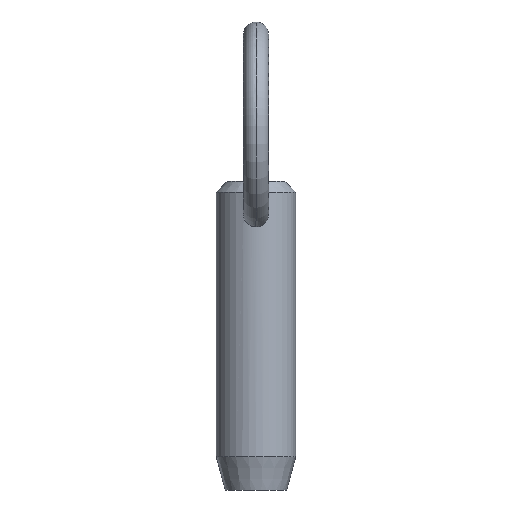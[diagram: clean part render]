
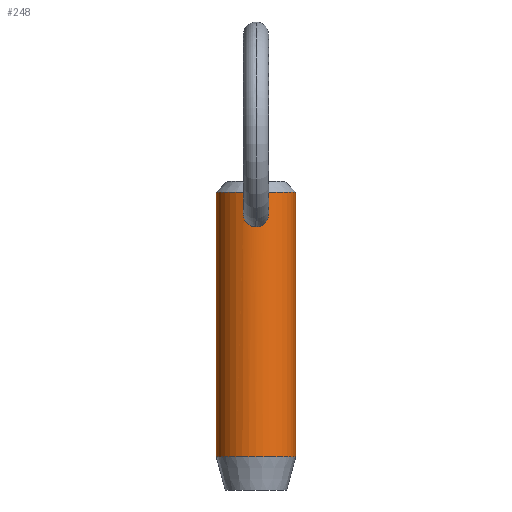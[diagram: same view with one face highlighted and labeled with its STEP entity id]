
A CAD part, front view. The second image highlights one B-rep face of the part: STEP entity #248.
In plain terms, the highlighted cylindrical face has radius 4.76 mm (diameter 9.52 mm), a partial arc.
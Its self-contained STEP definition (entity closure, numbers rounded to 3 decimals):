
#17 = ORIENTED_EDGE ( 'NONE', *, *, #436, .F. ) ;
#20 = CARTESIAN_POINT ( 'NONE',  ( 1.178, -4.613, 19.276 ) ) ;
#22 = AXIS2_PLACEMENT_3D ( 'NONE', #195, #475, #79 ) ;
#25 = CARTESIAN_POINT ( 'NONE',  ( 0., -4.76, 22.048 ) ) ;
#26 = CARTESIAN_POINT ( 'NONE',  ( 4.76, 0., -8.7 ) ) ;
#29 = CARTESIAN_POINT ( 'NONE',  ( 0.411, -4.743, 18.777 ) ) ;
#34 = EDGE_CURVE ( 'NONE', #52, #146, #136, .T. ) ;
#37 = CARTESIAN_POINT ( 'NONE',  ( 0., -4.76, 18.726 ) ) ;
#52 = VERTEX_POINT ( 'NONE', #222 ) ;
#65 = CARTESIAN_POINT ( 'NONE',  ( 1.45, -4.534, 19.828 ) ) ;
#74 = VERTEX_POINT ( 'NONE', #107 ) ;
#75 = DIRECTION ( 'NONE',  ( 0., 0., -1. ) ) ;
#79 = DIRECTION ( 'NONE',  ( 1., 0., 0. ) ) ;
#80 = EDGE_CURVE ( 'NONE', #74, #209, #473, .T. ) ;
#93 = CYLINDRICAL_SURFACE ( 'NONE', #246, 4.76 ) ;
#102 = CARTESIAN_POINT ( 'NONE',  ( -0.103, -4.76, 22.048 ) ) ;
#103 = CARTESIAN_POINT ( 'NONE',  ( 0.512, -4.733, 18.808 ) ) ;
#105 = CARTESIAN_POINT ( 'NONE',  ( 0.506, -4.734, 21.937 ) ) ;
#107 = CARTESIAN_POINT ( 'NONE',  ( 0., -4.76, 22.048 ) ) ;
#113 = VERTEX_POINT ( 'NONE', #144 ) ;
#114 = CARTESIAN_POINT ( 'NONE',  ( -0.961, -4.663, 19.057 ) ) ;
#115 = DIRECTION ( 'NONE',  ( -1., 0., 0. ) ) ;
#116 = EDGE_LOOP ( 'NONE', ( #497, #221 ) ) ;
#122 = VECTOR ( 'NONE', #455, 1000. ) ;
#136 = LINE ( 'NONE', #495, #522 ) ;
#137 = CARTESIAN_POINT ( 'NONE',  ( 0.409, -4.743, 21.978 ) ) ;
#139 = DIRECTION ( 'NONE',  ( -1., 0., 0. ) ) ;
#140 = CARTESIAN_POINT ( 'NONE',  ( 1.499, -4.518, 20.137 ) ) ;
#144 = CARTESIAN_POINT ( 'NONE',  ( 4.76, 0., 22.85 ) ) ;
#146 = VERTEX_POINT ( 'NONE', #363 ) ;
#155 = CARTESIAN_POINT ( 'NONE',  ( 0., 0., 17.8 ) ) ;
#181 = ORIENTED_EDGE ( 'NONE', *, *, #275, .T. ) ;
#183 = DIRECTION ( 'NONE',  ( 0., 0., 1. ) ) ;
#185 = CARTESIAN_POINT ( 'NONE',  ( -1.487, -4.522, 20.553 ) ) ;
#186 = CARTESIAN_POINT ( 'NONE',  ( 0.925, -4.67, 21.639 ) ) ;
#187 = CARTESIAN_POINT ( 'NONE',  ( -1.19, -4.611, 21.324 ) ) ;
#189 = CARTESIAN_POINT ( 'NONE',  ( 1.385, -4.554, 19.632 ) ) ;
#191 = CARTESIAN_POINT ( 'NONE',  ( -1.039, -4.646, 19.126 ) ) ;
#195 = CARTESIAN_POINT ( 'NONE',  ( 0., 0., 22.85 ) ) ;
#209 = VERTEX_POINT ( 'NONE', #37 ) ;
#218 = CARTESIAN_POINT ( 'NONE',  ( 1.473, -4.526, 19.931 ) ) ;
#219 = CARTESIAN_POINT ( 'NONE',  ( -0.777, -4.7, 21.785 ) ) ;
#220 = CARTESIAN_POINT ( 'NONE',  ( -1.292, -4.582, 21.145 ) ) ;
#221 = ORIENTED_EDGE ( 'NONE', *, *, #519, .T. ) ;
#222 = CARTESIAN_POINT ( 'NONE',  ( -4.76, 0., 22.85 ) ) ;
#223 = CARTESIAN_POINT ( 'NONE',  ( -0.208, -4.757, 22.034 ) ) ;
#226 = CARTESIAN_POINT ( 'NONE',  ( 1.344, -4.567, 19.539 ) ) ;
#229 = CARTESIAN_POINT ( 'NONE',  ( 1.19, -4.611, 21.324 ) ) ;
#233 = LINE ( 'NONE', #414, #122 ) ;
#244 = ORIENTED_EDGE ( 'NONE', *, *, #485, .T. ) ;
#246 = AXIS2_PLACEMENT_3D ( 'NONE', #155, #75, #115 ) ;
#248 = ADVANCED_FACE ( 'NONE', ( #521, #515 ), #93, .T. ) ;
#257 = ORIENTED_EDGE ( 'NONE', *, *, #34, .T. ) ;
#262 = CARTESIAN_POINT ( 'NONE',  ( 0.997, -4.655, 21.564 ) ) ;
#265 = CARTESIAN_POINT ( 'NONE',  ( -0.932, -4.67, 21.645 ) ) ;
#268 = CARTESIAN_POINT ( 'NONE',  ( 1.492, -4.52, 20.448 ) ) ;
#269 = CARTESIAN_POINT ( 'NONE',  ( -0.504, -4.734, 21.938 ) ) ;
#270 = CARTESIAN_POINT ( 'NONE',  ( 0.797, -4.697, 18.929 ) ) ;
#274 = CARTESIAN_POINT ( 'NONE',  ( 0., 0., -8.7 ) ) ;
#275 = EDGE_CURVE ( 'NONE', #113, #52, #476, .T. ) ;
#279 = CIRCLE ( 'NONE', #316, 4.76 ) ;
#298 = CARTESIAN_POINT ( 'NONE',  ( -0.416, -4.746, 18.767 ) ) ;
#303 = CARTESIAN_POINT ( 'NONE',  ( 0.208, -4.757, 18.736 ) ) ;
#304 = CARTESIAN_POINT ( 'NONE',  ( 0.105, -4.76, 18.726 ) ) ;
#305 = CARTESIAN_POINT ( 'NONE',  ( -1.441, -4.537, 20.757 ) ) ;
#307 = CARTESIAN_POINT ( 'NONE',  ( 0., -4.76, 18.726 ) ) ;
#316 = AXIS2_PLACEMENT_3D ( 'NONE', #274, #183, #139 ) ;
#323 = EDGE_LOOP ( 'NONE', ( #17, #181, #257, #244 ) ) ;
#343 = CARTESIAN_POINT ( 'NONE',  ( 0., -4.76, 22.048 ) ) ;
#346 = B_SPLINE_CURVE_WITH_KNOTS ( 'NONE', 3,
 ( #417, #391, #298, #461, #418, #114, #191, #387, #509, #518, #354, #185, #305, #220, #187, #265, #219, #269, #389, #223, #102, #343 ),
 .UNSPECIFIED., .F., .F.,
 ( 4, 2, 2, 2, 2, 2, 2, 2, 2, 2, 4 ),
 ( 0.009, 0.01, 0.01, 0.011, 0.011, 0.012, 0.012, 0.013, 0.014, 0.014, 0.014 ),
 .UNSPECIFIED. ) ;
#353 = CARTESIAN_POINT ( 'NONE',  ( 1.404, -4.548, 20.853 ) ) ;
#354 = CARTESIAN_POINT ( 'NONE',  ( -1.508, -4.515, 20.137 ) ) ;
#363 = CARTESIAN_POINT ( 'NONE',  ( -4.76, 0., -8.7 ) ) ;
#380 = DIRECTION ( 'NONE',  ( 0., 0., -1. ) ) ;
#386 = CARTESIAN_POINT ( 'NONE',  ( 1.434, -4.539, 20.754 ) ) ;
#387 = CARTESIAN_POINT ( 'NONE',  ( -1.247, -4.596, 19.352 ) ) ;
#388 = CARTESIAN_POINT ( 'NONE',  ( 0.104, -4.76, 22.048 ) ) ;
#389 = CARTESIAN_POINT ( 'NONE',  ( -0.409, -4.743, 21.978 ) ) ;
#391 = CARTESIAN_POINT ( 'NONE',  ( -0.21, -4.76, 18.726 ) ) ;
#414 = CARTESIAN_POINT ( 'NONE',  ( 4.76, 0., 17.8 ) ) ;
#417 = CARTESIAN_POINT ( 'NONE',  ( 0., -4.76, 18.726 ) ) ;
#418 = CARTESIAN_POINT ( 'NONE',  ( -0.793, -4.694, 18.939 ) ) ;
#419 = CARTESIAN_POINT ( 'NONE',  ( 0.97, -4.662, 19.05 ) ) ;
#422 = CARTESIAN_POINT ( 'NONE',  ( 1.293, -4.582, 21.142 ) ) ;
#436 = EDGE_CURVE ( 'NONE', #113, #507, #233, .T. ) ;
#455 = DIRECTION ( 'NONE',  ( 0., 0., -1. ) ) ;
#457 = CARTESIAN_POINT ( 'NONE',  ( 0.77, -4.698, 21.775 ) ) ;
#461 = CARTESIAN_POINT ( 'NONE',  ( -0.703, -4.709, 18.889 ) ) ;
#466 = CARTESIAN_POINT ( 'NONE',  ( 1.503, -4.517, 20.24 ) ) ;
#473 = B_SPLINE_CURVE_WITH_KNOTS ( 'NONE', 3,
 ( #25, #388, #510, #137, #105, #505, #457, #186, #262, #229, #422, #353, #386, #508, #268, #466, #140, #218, #65, #189, #226, #513, #20, #419, #270, #103, #29, #303, #304, #307 ),
 .UNSPECIFIED., .F., .F.,
 ( 4, 2, 2, 2, 2, 2, 2, 2, 2, 2, 2, 2, 2, 2, 4 ),
 ( 0.004, 0.005, 0.005, 0.005, 0.006, 0.006, 0.007, 0.007, 0.007, 0.007, 0.008, 0.008, 0.009, 0.009, 0.009 ),
 .UNSPECIFIED. ) ;
#475 = DIRECTION ( 'NONE',  ( 0., 0., -1. ) ) ;
#476 = CIRCLE ( 'NONE', #22, 4.76 ) ;
#485 = EDGE_CURVE ( 'NONE', #146, #507, #279, .T. ) ;
#495 = CARTESIAN_POINT ( 'NONE',  ( -4.76, 0., 17.8 ) ) ;
#497 = ORIENTED_EDGE ( 'NONE', *, *, #80, .T. ) ;
#505 = CARTESIAN_POINT ( 'NONE',  ( 0.687, -4.711, 21.835 ) ) ;
#507 = VERTEX_POINT ( 'NONE', #26 ) ;
#508 = CARTESIAN_POINT ( 'NONE',  ( 1.478, -4.525, 20.552 ) ) ;
#509 = CARTESIAN_POINT ( 'NONE',  ( -1.353, -4.564, 19.535 ) ) ;
#510 = CARTESIAN_POINT ( 'NONE',  ( 0.209, -4.756, 22.034 ) ) ;
#513 = CARTESIAN_POINT ( 'NONE',  ( 1.24, -4.596, 19.36 ) ) ;
#515 = FACE_BOUND ( 'NONE', #116, .T. ) ;
#518 = CARTESIAN_POINT ( 'NONE',  ( -1.483, -4.524, 19.926 ) ) ;
#519 = EDGE_CURVE ( 'NONE', #209, #74, #346, .T. ) ;
#521 = FACE_OUTER_BOUND ( 'NONE', #323, .T. ) ;
#522 = VECTOR ( 'NONE', #380, 1000. ) ;
